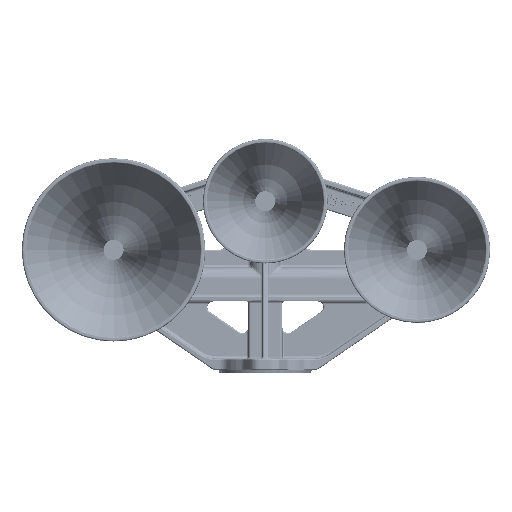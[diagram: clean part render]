
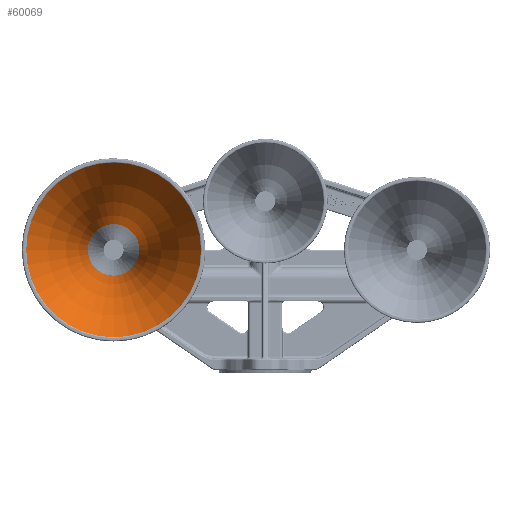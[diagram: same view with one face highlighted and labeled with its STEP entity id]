
A CAD part, front view. The second image highlights one B-rep face of the part: STEP entity #60069.
In plain terms, the highlighted toroidal (fillet/blend) face has major radius 325.543 mm and minor radius 301.625 mm.
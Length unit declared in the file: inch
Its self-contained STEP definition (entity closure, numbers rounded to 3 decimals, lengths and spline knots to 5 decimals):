
#4922=TOROIDAL_SURFACE('',#65720,12.81666,11.875);
#9056=FACE_OUTER_BOUND('',#12795,.T.);
#12795=EDGE_LOOP('',(#53399,#53400,#53401,#53402));
#23346=CIRCLE('',#65569,3.81534);
#23429=CIRCLE('',#65718,1.125);
#23431=CIRCLE('',#65721,11.875);
#28296=VERTEX_POINT('',#125365);
#28391=VERTEX_POINT('',#126924);
#36685=EDGE_CURVE('',#28296,#28296,#23346,.T.);
#36871=EDGE_CURVE('',#28391,#28391,#23429,.T.);
#36873=EDGE_CURVE('',#28296,#28391,#23431,.T.);
#53399=ORIENTED_EDGE('',*,*,#36685,.F.);
#53400=ORIENTED_EDGE('',*,*,#36873,.T.);
#53401=ORIENTED_EDGE('',*,*,#36871,.T.);
#53402=ORIENTED_EDGE('',*,*,#36873,.F.);
#60069=ADVANCED_FACE('',(#9056),#4922,.T.);
#65569=AXIS2_PLACEMENT_3D('',#125367,#78936,#78937);
#65718=AXIS2_PLACEMENT_3D('',#126925,#79290,#79291);
#65720=AXIS2_PLACEMENT_3D('',#126927,#79294,#79295);
#65721=AXIS2_PLACEMENT_3D('',#126928,#79296,#79297);
#78936=DIRECTION('center_axis',(0.,1.,0.));
#78937=DIRECTION('ref_axis',(0.,0.,-1.));
#79290=DIRECTION('center_axis',(0.,1.,0.));
#79291=DIRECTION('ref_axis',(1.,0.,0.));
#79294=DIRECTION('center_axis',(0.,1.,0.));
#79295=DIRECTION('ref_axis',(0.,0.,1.));
#79296=DIRECTION('center_axis',(-1.,0.,0.));
#79297=DIRECTION('ref_axis',(0.,0.,-1.));
#125365=CARTESIAN_POINT('',(0.,-15.07202,-3.81534));
#125367=CARTESIAN_POINT('Origin',(0.,-15.07202,0.));
#126924=CARTESIAN_POINT('',(0.,-9.40519,-1.125));
#126925=CARTESIAN_POINT('Origin',(0.,-9.40519,0.));
#126927=CARTESIAN_POINT('Origin',(0.,-7.32658,0.));
#126928=CARTESIAN_POINT('Origin',(0.,-7.32658,
-12.81666));
